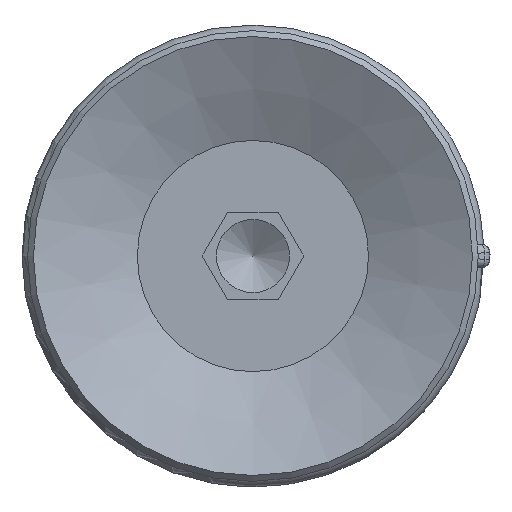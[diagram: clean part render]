
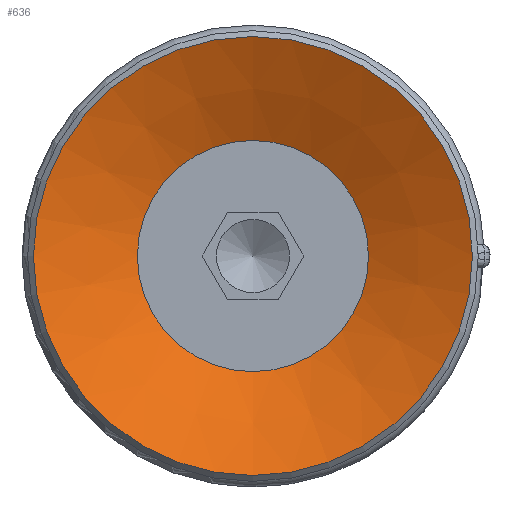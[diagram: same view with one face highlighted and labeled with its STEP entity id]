
A CAD part, front view. The second image highlights one B-rep face of the part: STEP entity #636.
In plain terms, the highlighted conical face has half-angle 64 degrees and reference radius 3.95 mm.
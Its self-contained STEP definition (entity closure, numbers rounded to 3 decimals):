
#636=ADVANCED_FACE('',(#948,#949),#950,.F.);
#948=FACE_BOUND('',#1399,.T.);
#949=FACE_OUTER_BOUND('',#1400,.T.);
#950=CONICAL_SURFACE('',#1401,3.95,1.117);
#1399=EDGE_LOOP('',(#2258));
#1400=EDGE_LOOP('',(#2259));
#1401=AXIS2_PLACEMENT_3D('',#2260,#2261,#2262);
#2258=ORIENTED_EDGE('',*,*,#2595,.F.);
#2259=ORIENTED_EDGE('',*,*,#2591,.T.);
#2260=CARTESIAN_POINT('',(0.0,-29.404,-47.168));
#2261=DIRECTION('',(-0.0,0.,1.0));
#2262=DIRECTION('',(0.0,-1.0,0.));
#2591=EDGE_CURVE('',#2995,#2995,#2996,.T.);
#2595=EDGE_CURVE('',#3003,#3003,#3004,.T.);
#2995=VERTEX_POINT('',#4045);
#2996=CIRCLE('',#4046,7.5);
#3003=VERTEX_POINT('',#4053);
#3004=CIRCLE('',#4054,3.95);
#4045=CARTESIAN_POINT('',(0.0,-36.904,-45.437));
#4046=AXIS2_PLACEMENT_3D('',#4462,#4463,#4464);
#4053=CARTESIAN_POINT('',(0.0,-33.354,-47.168));
#4054=AXIS2_PLACEMENT_3D('',#4474,#4475,#4476);
#4462=CARTESIAN_POINT('',(0.0,-29.404,-45.437));
#4463=DIRECTION('',(0.0,0.,1.0));
#4464=DIRECTION('',(0.0,-1.0,0.));
#4474=CARTESIAN_POINT('',(0.0,-29.404,-47.168));
#4475=DIRECTION('',(0.0,0.,1.0));
#4476=DIRECTION('',(0.0,-1.0,0.));
